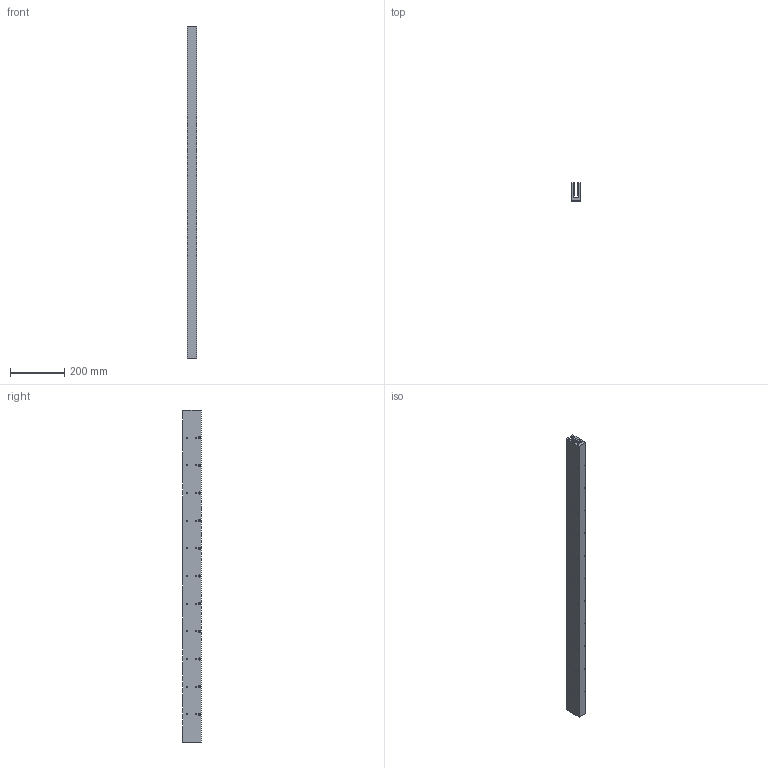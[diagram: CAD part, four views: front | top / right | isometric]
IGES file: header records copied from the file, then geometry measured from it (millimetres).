
Global section: file name: No Iges File Name specified; native system: Autodesk Inventor 2009; preprocessor: AutoDesk Inventor Iges Exporter R2009; author: je17857; date: 20091116.111624; units: inch
Bounding box: 34.29 x 67.31 x 1219.2 mm (x, y, z)
Volume: 1824403.9 mm3; surface area: 457775.3 mm2
Topology: 1 solids, 1 shells, 602 faces, 1446 edges, 964 vertices
Faces by surface type: plane 426, bspline 176
